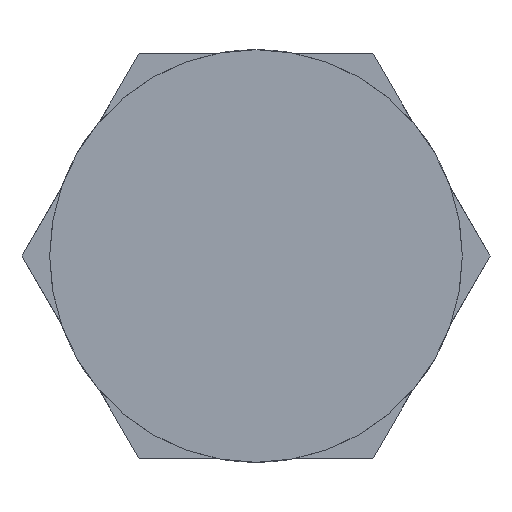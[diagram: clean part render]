
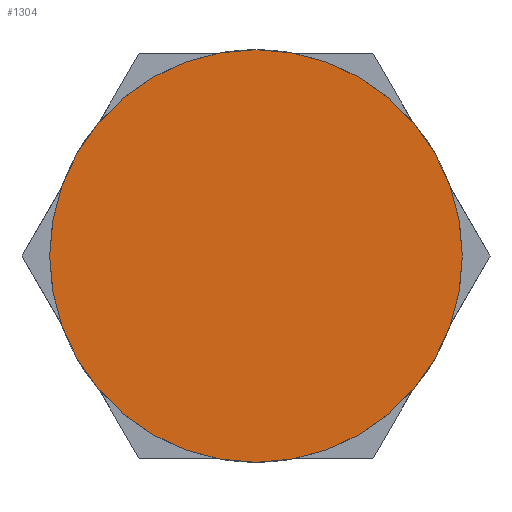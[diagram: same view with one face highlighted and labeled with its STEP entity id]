
A CAD part, left-side view. The second image highlights one B-rep face of the part: STEP entity #1304.
In plain terms, the highlighted planar face has unit normal (-1, 0, 0).
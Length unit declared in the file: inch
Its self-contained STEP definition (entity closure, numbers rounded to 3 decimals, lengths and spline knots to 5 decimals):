
#79 = DIRECTION ( 'NONE',  ( 1., 0., 0. ) ) ;
#108 = DIRECTION ( 'NONE',  ( 0., 0., -1. ) ) ;
#163 = DIRECTION ( 'NONE',  ( 1., 0., 0. ) ) ;
#261 = CARTESIAN_POINT ( 'NONE',  ( -2.904, 0., 0. ) ) ;
#403 = CARTESIAN_POINT ( 'NONE',  ( -2.904, 0., 0. ) ) ;
#499 = DIRECTION ( 'NONE',  ( 0., 0., 1. ) ) ;
#610 = DIRECTION ( 'NONE',  ( -1., 0., 0. ) ) ;
#612 = CARTESIAN_POINT ( 'NONE',  ( -2.904, 0.7635, 0. ) ) ;
#776 = DIRECTION ( 'NONE',  ( 0., 0., -1. ) ) ;
#780 = PLANE ( 'NONE',  #948 ) ;
#909 = CARTESIAN_POINT ( 'NONE',  ( -2.904, 0., -0.7635 ) ) ;
#923 = CARTESIAN_POINT ( 'NONE',  ( -2.904, 0., 0.7635 ) ) ;
#948 = AXIS2_PLACEMENT_3D ( 'NONE', #612, #610, #499 ) ;
#1069 = AXIS2_PLACEMENT_3D ( 'NONE', #403, #79, #108 ) ;
#1092 = EDGE_CURVE ( 'NONE', #1878, #1882, #1811, .T. ) ;
#1124 = AXIS2_PLACEMENT_3D ( 'NONE', #261, #163, #776 ) ;
#1157 = EDGE_CURVE ( 'NONE', #1882, #1878, #1545, .T. ) ;
#1304 = ADVANCED_FACE ( 'NONE', ( #2016 ), #780, .T. ) ;
#1545 = CIRCLE ( 'NONE', #1069, 0.7635 ) ;
#1761 = ORIENTED_EDGE ( 'NONE', *, *, #1157, .F. ) ;
#1789 = EDGE_LOOP ( 'NONE', ( #1761, #1808 ) ) ;
#1808 = ORIENTED_EDGE ( 'NONE', *, *, #1092, .F. ) ;
#1811 = CIRCLE ( 'NONE', #1124, 0.7635 ) ;
#1878 = VERTEX_POINT ( 'NONE', #923 ) ;
#1882 = VERTEX_POINT ( 'NONE', #909 ) ;
#2016 = FACE_OUTER_BOUND ( 'NONE', #1789, .T. ) ;
